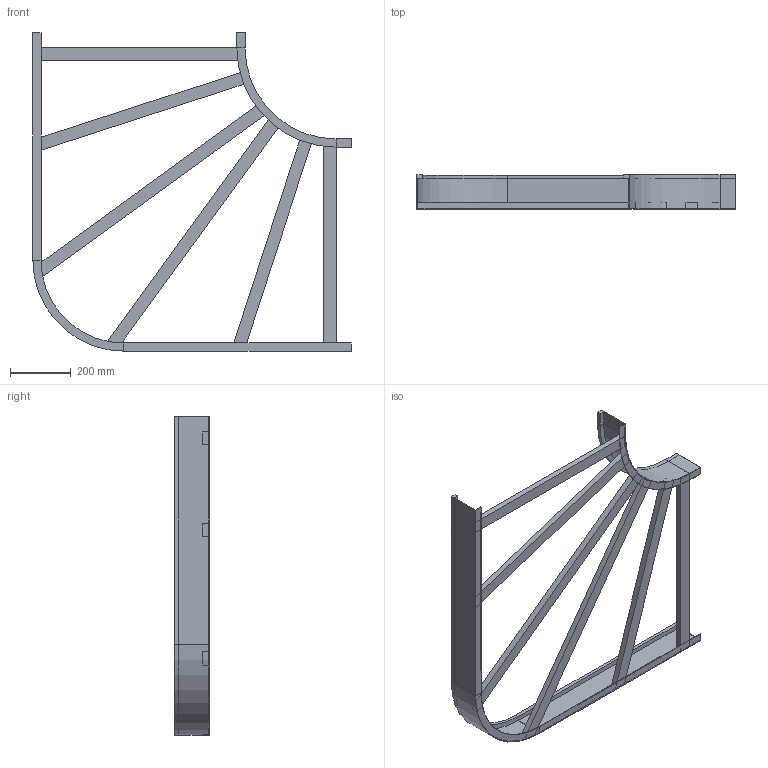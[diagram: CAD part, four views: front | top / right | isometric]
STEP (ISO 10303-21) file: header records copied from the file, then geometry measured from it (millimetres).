
FILE_DESCRIPTION (( 'STEP AP214' ), '1' );
FILE_NAME ('B2_10B3J700.step', '2025-02-21T15:25:25', ( '' ), ( '' ), 'SwSTEP 2.0', 'SolidWorks 2023', '' );
FILE_SCHEMA (( 'AUTOMOTIVE_DESIGN' ));
Length unit declared in the file: millimetre
Products named in the file (6): TRAVERSINO_700; B2_LONGH.INTERNO 90°_H112.5_R300; TRAVERSINO_995_SCANTONATO; B2_LONGH.ESTERNO 90°_H112.5_R300+700; TRAVERSINO_786_SCANTONATO; B2_10B3J700
Assembly tree (8 placements, depth 2):
  B2_10B3J700
    B2_LONGH.INTERNO 90°_H112.5_R300
    B2_LONGH.ESTERNO 90°_H112.5_R300+700
    TRAVERSINO_700  x2
    TRAVERSINO_786_SCANTONATO  x2
    TRAVERSINO_995_SCANTONATO  x2
Bounding box: 1050 x 112.5 x 1050 mm (x, y, z)
Volume: 5048304.2 mm3; surface area: 1379340.1 mm2
Topology: 8 solids, 8 shells, 88 faces, 184 edges, 112 vertices
Faces by surface type: plane 80, cylinder 8
Entity records: 2023 total; most frequent: DIRECTION 326, CARTESIAN_POINT 317, ORIENTED_EDGE 296, EDGE_CURVE 148, VECTOR 132, LINE 132, AXIS2_PLACEMENT_3D 97, VERTEX_POINT 88
